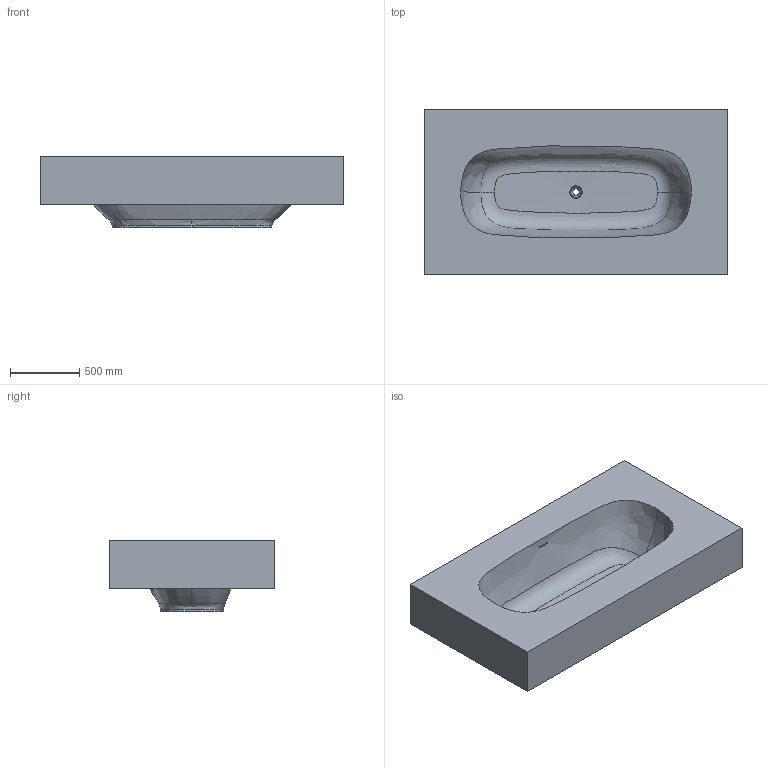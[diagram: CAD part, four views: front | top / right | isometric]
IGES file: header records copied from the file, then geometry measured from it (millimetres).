
Start section: Data from Parasolid IGES Translator 22.0.50, Copyright(c) 2006 Siemens P LM Software. All Rights Reserved.
Global section: file name: noorth-bathtub-H52 D75-120 W175-220_5666.igs; native system: By Siemens PLM Incorporated; preprocessor: XPlus GENERIC/IGES 22.0.50; author: Noname; organization: Noname; date: 20250706.161149; units: metre
Bounding box: 2200 x 1200 x 520 mm (x, y, z)
Volume: 114558598.1 mm3; surface area: 12661677.2 mm2
Topology: 1 solids, 1 shells, 175 faces, 437 edges, 264 vertices
Faces by surface type: bspline 119, plane 37, cylinder 9, cone 9, torus 1
Full cylindrical faces by diameter (mm): 49.885 x1
